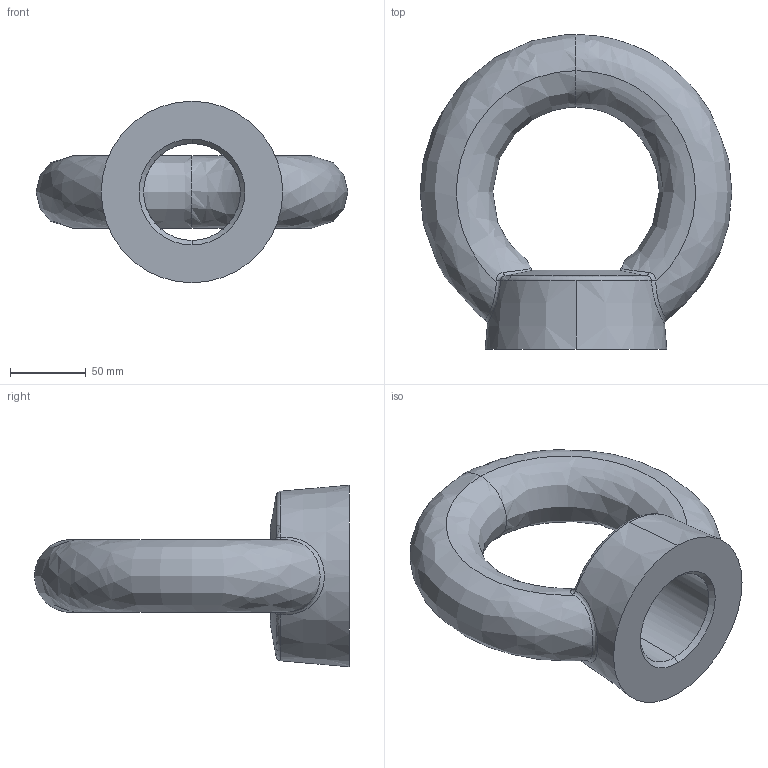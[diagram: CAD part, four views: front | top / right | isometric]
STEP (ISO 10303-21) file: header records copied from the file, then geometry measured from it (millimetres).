
FILE_DESCRIPTION (( 'STEP AP203' ), '1' );
FILE_NAME ('P4041.640-ZP.step', '2023-04-16T08:02:32', ( '' ), ( '' ), 'SwSTEP 2.0', 'SolidWorks 2019', '' );
FILE_SCHEMA (( 'CONFIG_CONTROL_DESIGN' ));
Length unit declared in the file: millimetre
Products named in the file (1): P4041.640-ZP
Bounding box: 206 x 207.99 x 120 mm (x, y, z)
Volume: 1072099.2 mm3; surface area: 98356.7 mm2
Topology: 1 solids, 1 shells, 27 faces, 69 edges, 41 vertices
Faces by surface type: bspline 14, cone 7, torus 3, cylinder 2, plane 1
Entity records: 3482 total; most frequent: CARTESIAN_POINT 2856, ORIENTED_EDGE 138, DIRECTION 87, EDGE_CURVE 69, VERTEX_POINT 41, AXIS2_PLACEMENT_3D 40, B_SPLINE_CURVE_WITH_KNOTS 34, EDGE_LOOP 28
